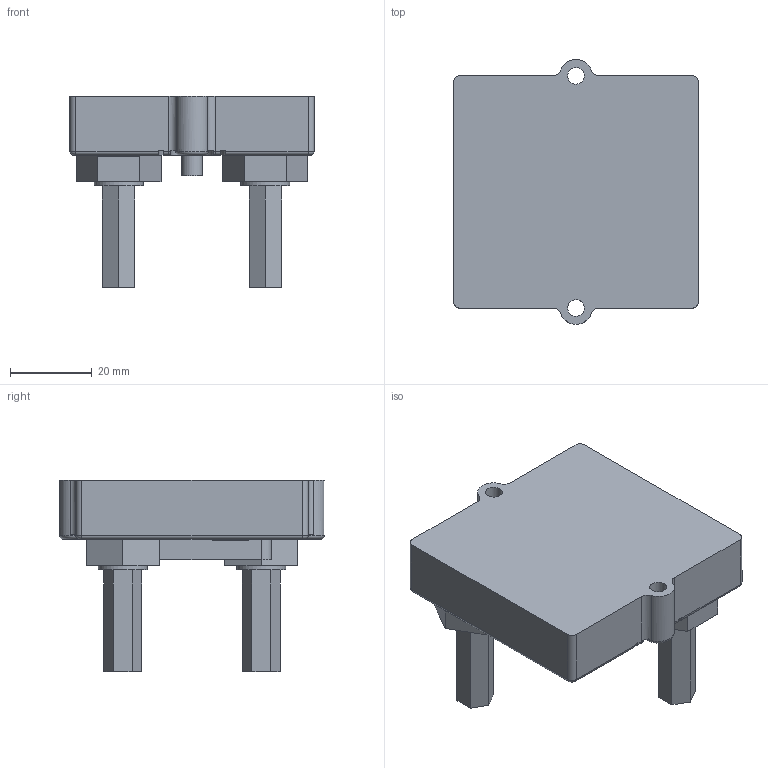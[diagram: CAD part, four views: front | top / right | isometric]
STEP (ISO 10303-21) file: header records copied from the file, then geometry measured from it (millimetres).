
FILE_DESCRIPTION(('STEP AP203'), '1');
FILE_NAME('Ð1-150Ì-47', '', ('UNSPECIFIED'), ('UNSPECIFIED'), 'C3D Converter', 'C3D Toolkit', '');
FILE_SCHEMA(('CONFIG_CONTROL_DESIGN'));
Length unit declared in the file: millimetre
Bounding box: 60 x 65 x 47 mm (x, y, z)
Volume: 55052 mm3; surface area: 15872 mm2
Topology: 1 solids, 5 shells, 144 faces, 365 edges, 242 vertices
Faces by surface type: plane 86, cylinder 44, torus 10, cone 4
Full cylindrical faces by diameter (mm): 4.1 x2, 5 x2, 7 x4, 8 x2, 12 x2, 16.2 x2
Entity records: 5692 total; most frequent: CARTESIAN_POINT 1028, DIRECTION 725, ORIENTED_EDGE 684, EDGE_CURVE 342, AXIS2_PLACEMENT_3D 254, VERTEX_POINT 239, LINE 217, VECTOR 217
